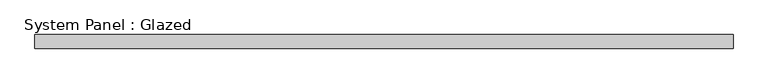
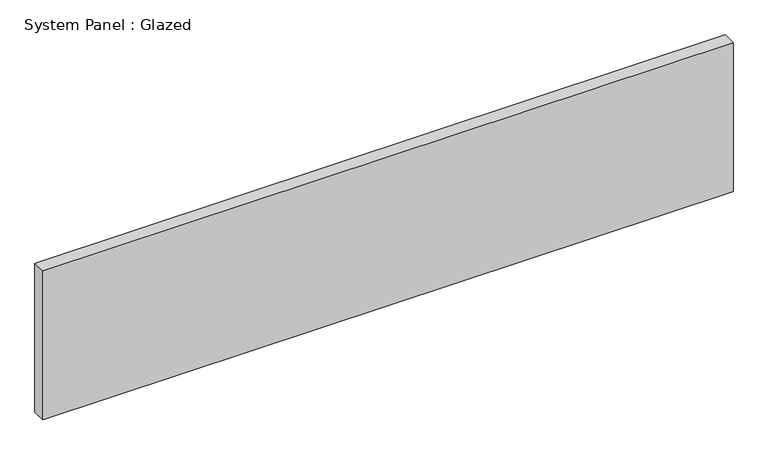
"""IFC4 building model written with IfcOpenShell, lengths in millimetres: plate geometry, System Panel : Glazed."""

import ifcopenshell
import ifcopenshell.guid

model = None  # the IFC model being written
_history = None  # IfcOwnerHistory: only IFC2X3 demands one
_inside = {}  # id of a spatial element -> (the spatial element, [elements in it])
_under = {}  # id of a project, library or spatial element -> (it, [spatial elements below it])
_declared = {}  # id of a project -> (the project, [libraries it declares])
_typed = {}  # id of a type object -> (the type object, [elements of that type])
_made_of = {}  # id of a material, layer set ... -> (it, [elements and type objects made of it])


def new_model(schema):
    """Start an empty IFC model of exactly this schema.

    Asked for "IFC4X3", IfcOpenShell would pick the latest addendum, in which some entities
    have other attributes; the version numbers below select the first issue.
    IFC2X3 requires an IfcOwnerHistory on every rooted entity: one is made here for all.
    """
    global model, _history
    if schema == "IFC4X3":
        model = ifcopenshell.file(schema_version=(4, 3, 0, 0))
    else:
        model = ifcopenshell.file(schema=schema)
    _inside.clear()
    _under.clear()
    _declared.clear()
    _typed.clear()
    _made_of.clear()
    _history = None
    if model.schema == "IFC2X3":
        org = make("IfcOrganization", Name="unknown")
        user = make(
            "IfcPersonAndOrganization",
            ThePerson=make("IfcPerson", FamilyName="unknown"),
            TheOrganization=org,
        )
        app = make(
            "IfcApplication",
            ApplicationDeveloper=org,
            Version="unknown",
            ApplicationFullName="unknown",
            ApplicationIdentifier="unknown",
        )
        _history = make(
            "IfcOwnerHistory",
            OwningUser=user,
            OwningApplication=app,
            ChangeAction="ADDED",
            CreationDate=0,
        )
    return model


def make(cls, **values):
    """One entity of the class cls with the attributes given. An attribute that is None is left unset."""
    return model.create_entity(
        cls, **{name: value for name, value in values.items() if value is not None}
    )


def rooted(cls, **values):
    """An entity with a GlobalId (a new one), such as an element, a storey or a relation."""
    return make(cls, GlobalId=ifcopenshell.guid.new(), OwnerHistory=_history, **values)


def si_unit(unit_type, name, prefix=None):
    """IfcSIUnit, for example si_unit("LENGTHUNIT", "METRE", prefix="MILLI")."""
    return make("IfcSIUnit", UnitType=unit_type, Prefix=prefix, Name=name)


def assignment(units):
    """IfcUnitAssignment: the units of a project."""
    return None if units is None else make("IfcUnitAssignment", Units=units)


def point(xyz):
    """IfcCartesianPoint."""
    return None if xyz is None else make("IfcCartesianPoint", Coordinates=xyz)


def direction(xyz):
    """IfcDirection."""
    return None if xyz is None else make("IfcDirection", DirectionRatios=xyz)


def frame(location, z_axis=None, x_axis=None):
    """IfcAxis2Placement3D, a coordinate frame: its origin and axes. An axis left out is left unset."""
    return make(
        "IfcAxis2Placement3D",
        Location=point(location),
        Axis=direction(z_axis),
        RefDirection=direction(x_axis),
    )


def origin():
    """The frame at (0, 0, 0) with its axes left unset."""
    return frame((0.0, 0.0, 0.0))


def origin_with_axes():
    """The frame at (0, 0, 0) with the z axis (0, 0, 1) and the x axis (1, 0, 0) written out."""
    return frame((0.0, 0.0, 0.0), z_axis=(0.0, 0.0, 1.0), x_axis=(1.0, 0.0, 0.0))


def place(relative_to, where):
    """IfcLocalPlacement: puts the frame where relative to a parent placement (None: the world)."""
    return make(
        "IfcLocalPlacement", PlacementRelTo=relative_to, RelativePlacement=where
    )


def context(
    kind, dimensions, precision=None, world=None, true_north=None, identifier=None
):
    """IfcGeometricRepresentationContext, for example the 3D "Model" context."""
    return make(
        "IfcGeometricRepresentationContext",
        ContextIdentifier=identifier,
        ContextType=kind,
        CoordinateSpaceDimension=dimensions,
        Precision=precision,
        WorldCoordinateSystem=world,
        TrueNorth=true_north,
    )


def project(units=None, contexts=None):
    """IfcProject with its units and contexts."""
    return rooted(
        "IfcProject",
        Name="project",
        RepresentationContexts=contexts,
        UnitsInContext=assignment(units),
    )


def spatial(cls, under=None, at=None, **own):
    """A site, building, storey or space (cls), placed at a placement, below another one or the project."""
    s = rooted(cls, ObjectPlacement=at, **own)
    if under is not None:
        _under.setdefault(under.id(), (under, []))[1].append(s)
    return s


def polyline(points):
    """IfcPolyline through the points."""
    return make("IfcPolyline", Points=[point(p) for p in points])


def outline(outer, holes=None, kind="AREA"):
    """IfcArbitraryClosedProfileDef: a profile drawn as a closed curve; with holes, ...WithVoids."""
    if holes is None:
        return make("IfcArbitraryClosedProfileDef", ProfileType=kind, OuterCurve=outer)
    return make(
        "IfcArbitraryProfileDefWithVoids",
        ProfileType=kind,
        OuterCurve=outer,
        InnerCurves=holes,
    )


def extrude(swept, where, along, depth):
    """IfcExtrudedAreaSolid: the profile swept, set in the frame where, extruded along a direction by depth."""
    return make(
        "IfcExtrudedAreaSolid",
        SweptArea=swept,
        Position=where,
        ExtrudedDirection=direction(along),
        Depth=depth,
    )


def shape(context_of_items, identifier, shape_type, items):
    """IfcShapeRepresentation: the items that make up one representation, for example the "Body"."""
    return make(
        "IfcShapeRepresentation",
        ContextOfItems=context_of_items,
        RepresentationIdentifier=identifier,
        RepresentationType=shape_type,
        Items=items,
    )


def source(mapping_origin, context_of_items, identifier, shape_type, items):
    """IfcRepresentationMap: a shape defined once, which mapped items show again and again."""
    return make(
        "IfcRepresentationMap",
        MappingOrigin=mapping_origin,
        MappedRepresentation=shape(context_of_items, identifier, shape_type, items),
    )


def transform(
    local_origin,
    x_axis=None,
    y_axis=None,
    z_axis=None,
    scale=None,
    scale2=None,
    scale3=None,
    uniform=True,
):
    """IfcCartesianTransformationOperator3D, or its non-uniform kind. x_axis, y_axis, z_axis: its Axis1, 2, 3."""
    if uniform:
        return make(
            "IfcCartesianTransformationOperator3D",
            Axis1=direction(x_axis),
            Axis2=direction(y_axis),
            LocalOrigin=point(local_origin),
            Scale=scale,
            Axis3=direction(z_axis),
        )
    return make(
        "IfcCartesianTransformationOperator3DnonUniform",
        Axis1=direction(x_axis),
        Axis2=direction(y_axis),
        LocalOrigin=point(local_origin),
        Scale=scale,
        Axis3=direction(z_axis),
        Scale2=scale2,
        Scale3=scale3,
    )


def mapped(mapping_source, mapping_target):
    """IfcMappedItem: shows the shape of a source again, moved by a transform."""
    return make(
        "IfcMappedItem", MappingSource=mapping_source, MappingTarget=mapping_target
    )


def made_of(thing, what):
    """Note that an element or type object is made of a material, layer set ...; save() writes the relation."""
    if what is not None:
        _made_of.setdefault(what.id(), (what, []))[1].append(thing)
    return thing


def element(
    cls,
    number,
    at=None,
    inside=None,
    cuts=None,
    type_object=None,
    material=None,
    context=None,
    identifier="Body",
    shape_type=None,
    held_by="IfcProductDefinitionShape",
    body=None,
    shapes=None,
    **own,
):
    """One element of the class cls, such as IfcWall. Its Tag is "e" and its number.

    at: its placement. inside: the storey or other place that contains it. cuts: it is an
    opening in that element (IfcRelVoidsElement). A single representation is given by context,
    identifier, shape_type and body (its items); several are given by shapes. held_by: the class
    of the entity that holds the representations. save() writes the other relations.
    """
    e = rooted(cls, Tag="e%d" % number, ObjectPlacement=at, **own)
    if body is not None:
        shapes = [shape(context, identifier, shape_type, body)]
    if shapes is not None:
        e.Representation = make(held_by, Representations=shapes)
    if inside is not None:
        _inside.setdefault(inside.id(), (inside, []))[1].append(e)
    if cuts is not None:
        rooted(
            "IfcRelVoidsElement", RelatingBuildingElement=cuts, RelatedOpeningElement=e
        )
    if type_object is not None:
        _typed.setdefault(type_object.id(), (type_object, []))[1].append(e)
    return made_of(e, material)


def aggregate(whole, parts):
    """IfcRelAggregates: a whole, such as a stair, and the parts it consists of."""
    return rooted("IfcRelAggregates", RelatingObject=whole, RelatedObjects=parts)


def save(model, path):
    """Write the relations noted so far, then the file.

    IfcRelAggregates (storeys below a building ...), IfcRelContainedInSpatialStructure (elements
    in a storey), IfcRelDefinesByType, IfcRelAssociatesMaterial and IfcRelDeclares: one each for
    every whole, place, type object, material and project.
    """
    for whole, parts in _under.values():
        aggregate(whole, parts)
    for where, things in _inside.values():
        rooted(
            "IfcRelContainedInSpatialStructure",
            RelatedElements=things,
            RelatingStructure=where,
        )
    for kind, things in _typed.values():
        rooted("IfcRelDefinesByType", RelatedObjects=things, RelatingType=kind)
    for what, things in _made_of.values():
        rooted("IfcRelAssociatesMaterial", RelatedObjects=things, RelatingMaterial=what)
    for by, libraries in _declared.values():
        rooted("IfcRelDeclares", RelatingContext=by, RelatedDefinitions=libraries)
    model.write(path)


def system_panel_glazed_4120c17d(model_context):
    return source(origin(), model_context, "Body", "SweptSolid", [
        extrude(outline(polyline([(652.3750001, 19.05), (-652.3750001, 19.05), (-652.3750001, 44.45), (652.3750001, 44.45), (652.3750001, 19.05)])), origin_with_axes(), (0.0, 0.0, 1.0), 298.1),
    ])


if __name__ == "__main__":
    model = new_model("IFC4")
    model_context = context("Model", 3, world=origin())
    ifc_project = project(units=[si_unit("LENGTHUNIT", "METRE", prefix="MILLI")], contexts=[model_context])
    site = spatial("IfcSite", under=ifc_project)
    building = spatial("IfcBuilding", under=site)
    placement = place(None, origin())
    system_panel_glazed_shape = system_panel_glazed_4120c17d(model_context)
    element("IfcPlate", 1, ObjectType="System Panel : Glazed", at=placement, inside=building, context=model_context, shape_type="MappedRepresentation", body=[
        mapped(system_panel_glazed_shape, transform((0.0, 0.0, 0.0), x_axis=(1.0, 0.0, 0.0), y_axis=(0.0, 1.0, 0.0), z_axis=(0.0, 0.0, 1.0))),
    ])
    save(model, "model.ifc")
